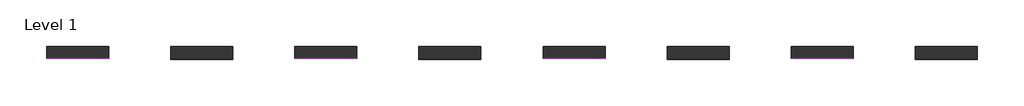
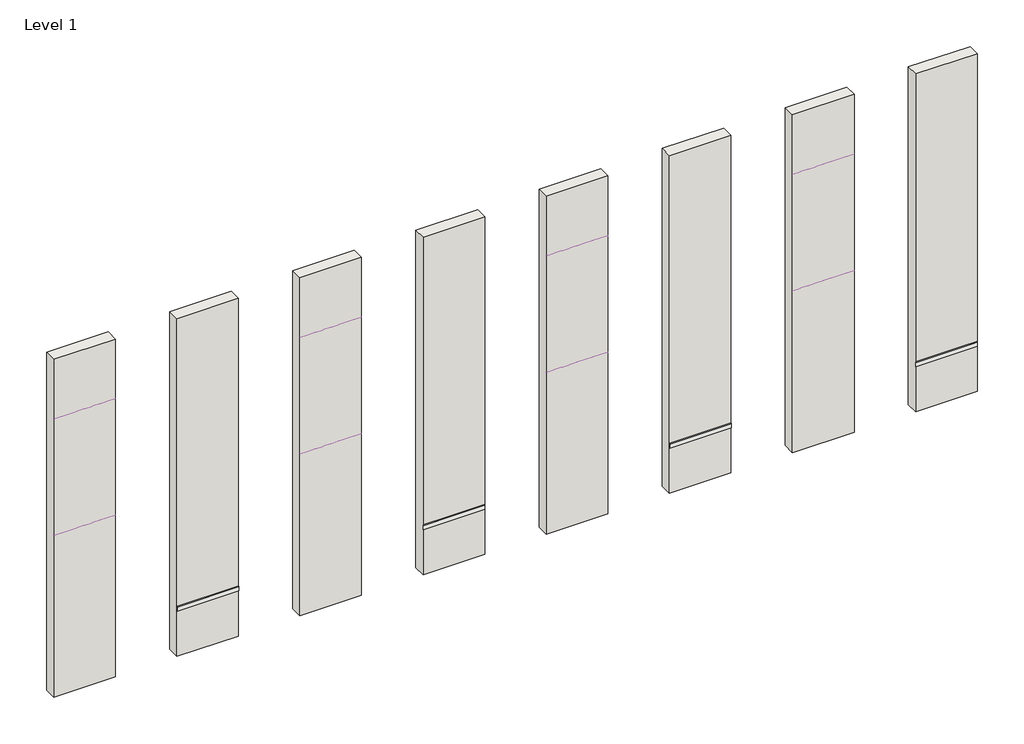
# One storey: 12 coverings, 8 walls.
"""IFC4 building model written with IfcOpenShell, lengths in millimetres."""

from ifc_helpers import new_model, si_unit, point, frame, frame_2d, origin, place, context, project, spatial, polyline, circle_curve, trimmed, segment, composite_curve, outline, extrude, faceted_brep, element, save

model = new_model("IFC4")

# Units and contexts
model_context = context("Model", 3, world=origin())
ifc_project = project(units=[si_unit("LENGTHUNIT", "METRE", prefix="MILLI")], contexts=[model_context])

# Site, building, storey
site = spatial("IfcSite", under=ifc_project)
building = spatial("IfcBuilding", under=site)
storey = spatial("IfcBuildingStorey", under=building, Name="Level 1", Elevation=0.0)

# Coverings
placement = place(None, origin())
element("IfcCovering", 1, ObjectType="LOVE TILES-SENSE-SKIRTING-8X60-TOUCH RECTIFIED-BEIGE", at=placement, inside=storey, context=model_context, shape_type="SweptSolid", body=[
    extrude(outline(composite_curve([segment(polyline([(3499.3010454, 4780.0), (3490.3010454, 4780.0), (3490.3010454, 4851.0)]), True, "CONTINUOUS"), segment(trimmed(circle_curve(frame_2d((3499.3010454, 4851.0)), 9.0), [point((3490.3010454, 4851.0))], [point((3499.3010454, 4860.0))], False, "CARTESIAN"), True, "CONTINUOUS"), segment(polyline([(3499.3010454, 4860.0), (3499.3010454, 4780.0)]), True, "CONTINUOUS")], self_intersect=False)), frame((2507.4095551, 0.0, 0.0), z_axis=(1.0, 0.0, 0.0), x_axis=(0.0, 1.0, 0.0)), (0.0, 0.0, 1.0), 1000.0),
])
element("IfcCovering", 2, ObjectType="LOVE TILES-SENSE-SKIRTING-8X80-TOUCH RECTIFIED-BEIGE", at=placement, inside=storey, context=model_context, shape_type="SweptSolid", body=[
    extrude(outline(composite_curve([segment(polyline([(3499.3010454, 2780.0), (3490.3010454, 2780.0), (3490.3010454, 2851.0)]), True, "CONTINUOUS"), segment(trimmed(circle_curve(frame_2d((3499.3010454, 2851.0)), 9.0), [point((3490.3010454, 2851.0))], [point((3499.3010454, 2860.0))], False, "CARTESIAN"), True, "CONTINUOUS"), segment(polyline([(3499.3010454, 2860.0), (3499.3010454, 2780.0)]), True, "CONTINUOUS")], self_intersect=False)), frame((2507.4095551, 0.0, 0.0), z_axis=(1.0, 0.0, 0.0), x_axis=(0.0, 1.0, 0.0)), (0.0, 0.0, 1.0), 1000.0),
])
element("IfcCovering", 3, ObjectType="LOVE TILES-SENSE-SKIRTING-8X100-IN&OUT RECTIFIED-BEIGE", at=placement, inside=storey, context=model_context, shape_type="SweptSolid", body=[
    extrude(outline(composite_curve([segment(polyline([(3499.3010454, 780.0), (3490.3010454, 780.0), (3490.3010454, 851.0)]), True, "CONTINUOUS"), segment(trimmed(circle_curve(frame_2d((3499.3010454, 851.0)), 9.0), [point((3490.3010454, 851.0))], [point((3499.3010454, 860.0))], False, "CARTESIAN"), True, "CONTINUOUS"), segment(polyline([(3499.3010454, 860.0), (3499.3010454, 780.0)]), True, "CONTINUOUS")], self_intersect=False)), frame((4507.4095551, 0.0, 0.0), z_axis=(1.0, 0.0, 0.0), x_axis=(0.0, 1.0, 0.0)), (0.0, 0.0, 1.0), 1000.0),
])
element("IfcCovering", 4, ObjectType="LOVE TILES-SENSE-SKIRTING-8X60-TOUCH RECTIFIED-GREY", at=placement, inside=storey, context=model_context, shape_type="SweptSolid", body=[
    extrude(outline(composite_curve([segment(polyline([(3499.3010454, 4780.0), (3490.3010454, 4780.0), (3490.3010454, 4851.0)]), True, "CONTINUOUS"), segment(trimmed(circle_curve(frame_2d((3499.3010454, 4851.0)), 9.0), [point((3490.3010454, 4851.0))], [point((3499.3010454, 4860.0))], False, "CARTESIAN"), True, "CONTINUOUS"), segment(polyline([(3499.3010454, 4860.0), (3499.3010454, 4780.0)]), True, "CONTINUOUS")], self_intersect=False)), frame((6507.4095551, 0.0, 0.0), z_axis=(1.0, 0.0, 0.0), x_axis=(0.0, 1.0, 0.0)), (0.0, 0.0, 1.0), 1000.0),
])
element("IfcCovering", 5, ObjectType="LOVE TILES-SENSE-SKIRTING-8X60-TOUCH RECTIFIED-LIGHT GREY", at=placement, inside=storey, context=model_context, shape_type="SweptSolid", body=[
    extrude(outline(composite_curve([segment(polyline([(3499.3010454, 4780.0), (3490.3010454, 4780.0), (3490.3010454, 4851.0)]), True, "CONTINUOUS"), segment(trimmed(circle_curve(frame_2d((3499.3010454, 4851.0)), 9.0), [point((3490.3010454, 4851.0))], [point((3499.3010454, 4860.0))], False, "CARTESIAN"), True, "CONTINUOUS"), segment(polyline([(3499.3010454, 4860.0), (3499.3010454, 4780.0)]), True, "CONTINUOUS")], self_intersect=False)), frame((10507.4095551, 0.0, 0.0), z_axis=(1.0, 0.0, 0.0), x_axis=(0.0, 1.0, 0.0)), (0.0, 0.0, 1.0), 1000.0),
])
element("IfcCovering", 6, ObjectType="LOVE TILES-SENSE-SKIRTING-8X60-TOUCH RECTIFIED-WHITE", at=placement, inside=storey, context=model_context, shape_type="SweptSolid", body=[
    extrude(outline(composite_curve([segment(polyline([(3499.3010454, 4780.0), (3490.3010454, 4780.0), (3490.3010454, 4851.0)]), True, "CONTINUOUS"), segment(trimmed(circle_curve(frame_2d((3499.3010454, 4851.0)), 9.0), [point((3490.3010454, 4851.0))], [point((3499.3010454, 4860.0))], False, "CARTESIAN"), True, "CONTINUOUS"), segment(polyline([(3499.3010454, 4860.0), (3499.3010454, 4780.0)]), True, "CONTINUOUS")], self_intersect=False)), frame((14507.4095551, 0.0, 0.0), z_axis=(1.0, 0.0, 0.0), x_axis=(0.0, 1.0, 0.0)), (0.0, 0.0, 1.0), 1000.0),
])
element("IfcCovering", 7, ObjectType="LOVE TILES-SENSE-SKIRTING-8X80-TOUCH RECTIFIED-GREY", at=placement, inside=storey, context=model_context, shape_type="SweptSolid", body=[
    extrude(outline(composite_curve([segment(polyline([(3499.3010454, 2780.0), (3490.3010454, 2780.0), (3490.3010454, 2851.0)]), True, "CONTINUOUS"), segment(trimmed(circle_curve(frame_2d((3499.3010454, 2851.0)), 9.0), [point((3490.3010454, 2851.0))], [point((3499.3010454, 2860.0))], False, "CARTESIAN"), True, "CONTINUOUS"), segment(polyline([(3499.3010454, 2860.0), (3499.3010454, 2780.0)]), True, "CONTINUOUS")], self_intersect=False)), frame((6507.4095551, 0.0, 0.0), z_axis=(1.0, 0.0, 0.0), x_axis=(0.0, 1.0, 0.0)), (0.0, 0.0, 1.0), 1000.0),
])
element("IfcCovering", 8, ObjectType="LOVE TILES-SENSE-SKIRTING-8X80-TOUCH RECTIFIED-LIGHT GREY", at=placement, inside=storey, context=model_context, shape_type="SweptSolid", body=[
    extrude(outline(composite_curve([segment(polyline([(3499.3010454, 2780.0), (3490.3010454, 2780.0), (3490.3010454, 2851.0)]), True, "CONTINUOUS"), segment(trimmed(circle_curve(frame_2d((3499.3010454, 2851.0)), 9.0), [point((3490.3010454, 2851.0))], [point((3499.3010454, 2860.0))], False, "CARTESIAN"), True, "CONTINUOUS"), segment(polyline([(3499.3010454, 2860.0), (3499.3010454, 2780.0)]), True, "CONTINUOUS")], self_intersect=False)), frame((10507.4095551, 0.0, 0.0), z_axis=(1.0, 0.0, 0.0), x_axis=(0.0, 1.0, 0.0)), (0.0, 0.0, 1.0), 1000.0),
])
element("IfcCovering", 9, ObjectType="LOVE TILES-SENSE-SKIRTING-8X80-TOUCH RECTIFIED-WHITE", at=placement, inside=storey, context=model_context, shape_type="SweptSolid", body=[
    extrude(outline(composite_curve([segment(polyline([(3499.3010454, 2780.0), (3490.3010454, 2780.0), (3490.3010454, 2851.0)]), True, "CONTINUOUS"), segment(trimmed(circle_curve(frame_2d((3499.3010454, 2851.0)), 9.0), [point((3490.3010454, 2851.0))], [point((3499.3010454, 2860.0))], False, "CARTESIAN"), True, "CONTINUOUS"), segment(polyline([(3499.3010454, 2860.0), (3499.3010454, 2780.0)]), True, "CONTINUOUS")], self_intersect=False)), frame((14507.4095551, 0.0, 0.0), z_axis=(1.0, 0.0, 0.0), x_axis=(0.0, 1.0, 0.0)), (0.0, 0.0, 1.0), 1000.0),
])
element("IfcCovering", 10, ObjectType="LOVE TILES-SENSE-SKIRTING-8X100-IN&OUT RECTIFIED-GREY", at=placement, inside=storey, context=model_context, shape_type="SweptSolid", body=[
    extrude(outline(composite_curve([segment(polyline([(3499.3010454, 780.0), (3490.3010454, 780.0), (3490.3010454, 851.0)]), True, "CONTINUOUS"), segment(trimmed(circle_curve(frame_2d((3499.3010454, 851.0)), 9.0), [point((3490.3010454, 851.0))], [point((3499.3010454, 860.0))], False, "CARTESIAN"), True, "CONTINUOUS"), segment(polyline([(3499.3010454, 860.0), (3499.3010454, 780.0)]), True, "CONTINUOUS")], self_intersect=False)), frame((8507.4095551, 0.0, 0.0), z_axis=(1.0, 0.0, 0.0), x_axis=(0.0, 1.0, 0.0)), (0.0, 0.0, 1.0), 1000.0),
])
element("IfcCovering", 11, ObjectType="LOVE TILES-SENSE-SKIRTING-8X100-IN&OUT RECTIFIED-LIGHT GREY", at=placement, inside=storey, context=model_context, shape_type="SweptSolid", body=[
    extrude(outline(composite_curve([segment(polyline([(3499.3010454, 780.0), (3490.3010454, 780.0), (3490.3010454, 851.0)]), True, "CONTINUOUS"), segment(trimmed(circle_curve(frame_2d((3499.3010454, 851.0)), 9.0), [point((3490.3010454, 851.0))], [point((3499.3010454, 860.0))], False, "CARTESIAN"), True, "CONTINUOUS"), segment(polyline([(3499.3010454, 860.0), (3499.3010454, 780.0)]), True, "CONTINUOUS")], self_intersect=False)), frame((12507.4095551, 0.0, 0.0), z_axis=(1.0, 0.0, 0.0), x_axis=(0.0, 1.0, 0.0)), (0.0, 0.0, 1.0), 1000.0),
])
element("IfcCovering", 12, ObjectType="LOVE TILES-SENSE-SKIRTING-8X100-IN&OUT RECTIFIED-WHITE", at=placement, inside=storey, context=model_context, shape_type="SweptSolid", body=[
    extrude(outline(composite_curve([segment(polyline([(3499.3010454, 780.0), (3490.3010454, 780.0), (3490.3010454, 851.0)]), True, "CONTINUOUS"), segment(trimmed(circle_curve(frame_2d((3499.3010454, 851.0)), 9.0), [point((3490.3010454, 851.0))], [point((3499.3010454, 860.0))], False, "CARTESIAN"), True, "CONTINUOUS"), segment(polyline([(3499.3010454, 860.0), (3499.3010454, 780.0)]), True, "CONTINUOUS")], self_intersect=False)), frame((16507.4095551, 0.0, 0.0), z_axis=(1.0, 0.0, 0.0), x_axis=(0.0, 1.0, 0.0)), (0.0, 0.0, 1.0), 1000.0),
])

# Walls
element("IfcWall", 13, ObjectType="Wall 1", at=placement, inside=storey, context=model_context, shape_type="Brep", body=[
    faceted_brep([(2507.4095551, 3499.3010454, 0.0), (3507.4095551, 3499.3010454, 0.0), (3507.4095551, 3499.3010454, 2780.0), (3507.4095551, 3499.3010454, 2860.0), (3507.4095551, 3499.3010454, 4780.0), (3507.4095551, 3499.3010454, 4860.0), (3507.4095551, 3499.3010454, 5800.0), (2507.4095551, 3499.3010454, 5800.0), (2507.4095551, 3499.3010454, 4860.0), (2507.4095551, 3499.3010454, 4780.0), (2507.4095551, 3499.3010454, 2860.0), (2507.4095551, 3499.3010454, 2780.0), (3507.4095551, 3699.3010454, 0.0), (2507.4095551, 3699.3010454, 0.0), (2507.4095551, 3699.3010454, 5800.0), (3507.4095551, 3699.3010454, 5800.0)], [[[0, 1, 2, 3, 4, 5, 6, 7, 8, 9, 10, 11]], [[12, 13, 14, 15]], [[1, 0, 13, 12]], [[12, 15, 6, 5, 4, 3, 2, 1]], [[7, 6, 15, 14]], [[14, 13, 0, 11, 10, 9, 8, 7]]]),
])
element("IfcWall", 14, ObjectType="Wall 1", at=placement, inside=storey, context=model_context, shape_type="Brep", body=[
    faceted_brep([(4507.4095551, 3499.3010454, 0.0), (5507.4095551, 3499.3010454, 0.0), (5507.4095551, 3499.3010454, 780.0), (5507.4095551, 3499.3010454, 860.0), (5507.4095551, 3499.3010454, 5800.0), (4507.4095551, 3499.3010454, 5800.0), (4507.4095551, 3499.3010454, 860.0), (4507.4095551, 3499.3010454, 780.0), (5507.4095551, 3699.3010454, 0.0), (4507.4095551, 3699.3010454, 0.0), (4507.4095551, 3699.3010454, 5800.0), (5507.4095551, 3699.3010454, 5800.0)], [[[0, 1, 2, 3, 4, 5, 6, 7]], [[8, 9, 10, 11]], [[1, 0, 9, 8]], [[8, 11, 4, 3, 2, 1]], [[5, 4, 11, 10]], [[10, 9, 0, 7, 6, 5]]]),
])
element("IfcWall", 15, ObjectType="Wall 1", at=placement, inside=storey, context=model_context, shape_type="Brep", body=[
    faceted_brep([(6507.4095551, 3499.3010454, 0.0), (7507.4095551, 3499.3010454, 0.0), (7507.4095551, 3499.3010454, 2780.0), (7507.4095551, 3499.3010454, 2860.0), (7507.4095551, 3499.3010454, 4780.0), (7507.4095551, 3499.3010454, 4860.0), (7507.4095551, 3499.3010454, 5800.0), (6507.4095551, 3499.3010454, 5800.0), (6507.4095551, 3499.3010454, 4860.0), (6507.4095551, 3499.3010454, 4780.0), (6507.4095551, 3499.3010454, 2860.0), (6507.4095551, 3499.3010454, 2780.0), (7507.4095551, 3699.3010454, 0.0), (6507.4095551, 3699.3010454, 0.0), (6507.4095551, 3699.3010454, 5800.0), (7507.4095551, 3699.3010454, 5800.0)], [[[0, 1, 2, 3, 4, 5, 6, 7, 8, 9, 10, 11]], [[12, 13, 14, 15]], [[1, 0, 13, 12]], [[12, 15, 6, 5, 4, 3, 2, 1]], [[7, 6, 15, 14]], [[14, 13, 0, 11, 10, 9, 8, 7]]]),
])
element("IfcWall", 16, ObjectType="Wall 1", at=placement, inside=storey, context=model_context, shape_type="Brep", body=[
    faceted_brep([(8507.4095551, 3499.3010454, 0.0), (9507.4095551, 3499.3010454, 0.0), (9507.4095551, 3499.3010454, 780.0), (9507.4095551, 3499.3010454, 860.0), (9507.4095551, 3499.3010454, 5800.0), (8507.4095551, 3499.3010454, 5800.0), (8507.4095551, 3499.3010454, 860.0), (8507.4095551, 3499.3010454, 780.0), (9507.4095551, 3699.3010454, 0.0), (8507.4095551, 3699.3010454, 0.0), (8507.4095551, 3699.3010454, 5800.0), (9507.4095551, 3699.3010454, 5800.0)], [[[0, 1, 2, 3, 4, 5, 6, 7]], [[8, 9, 10, 11]], [[1, 0, 9, 8]], [[8, 11, 4, 3, 2, 1]], [[5, 4, 11, 10]], [[10, 9, 0, 7, 6, 5]]]),
])
element("IfcWall", 17, ObjectType="Wall 1", at=placement, inside=storey, context=model_context, shape_type="Brep", body=[
    faceted_brep([(10507.4095551, 3499.3010454, 0.0), (11507.4095551, 3499.3010454, 0.0), (11507.4095551, 3499.3010454, 2780.0), (11507.4095551, 3499.3010454, 2860.0), (11507.4095551, 3499.3010454, 4780.0), (11507.4095551, 3499.3010454, 4860.0), (11507.4095551, 3499.3010454, 5800.0), (10507.4095551, 3499.3010454, 5800.0), (10507.4095551, 3499.3010454, 4860.0), (10507.4095551, 3499.3010454, 4780.0), (10507.4095551, 3499.3010454, 2860.0), (10507.4095551, 3499.3010454, 2780.0), (11507.4095551, 3699.3010454, 0.0), (10507.4095551, 3699.3010454, 0.0), (10507.4095551, 3699.3010454, 5800.0), (11507.4095551, 3699.3010454, 5800.0)], [[[0, 1, 2, 3, 4, 5, 6, 7, 8, 9, 10, 11]], [[12, 13, 14, 15]], [[1, 0, 13, 12]], [[12, 15, 6, 5, 4, 3, 2, 1]], [[7, 6, 15, 14]], [[14, 13, 0, 11, 10, 9, 8, 7]]]),
])
element("IfcWall", 18, ObjectType="Wall 1", at=placement, inside=storey, context=model_context, shape_type="Brep", body=[
    faceted_brep([(12507.4095551, 3499.3010454, 0.0), (13507.4095551, 3499.3010454, 0.0), (13507.4095551, 3499.3010454, 780.0), (13507.4095551, 3499.3010454, 860.0), (13507.4095551, 3499.3010454, 5800.0), (12507.4095551, 3499.3010454, 5800.0), (12507.4095551, 3499.3010454, 860.0), (12507.4095551, 3499.3010454, 780.0), (13507.4095551, 3699.3010454, 0.0), (12507.4095551, 3699.3010454, 0.0), (12507.4095551, 3699.3010454, 5800.0), (13507.4095551, 3699.3010454, 5800.0)], [[[0, 1, 2, 3, 4, 5, 6, 7]], [[8, 9, 10, 11]], [[1, 0, 9, 8]], [[8, 11, 4, 3, 2, 1]], [[5, 4, 11, 10]], [[10, 9, 0, 7, 6, 5]]]),
])
element("IfcWall", 19, ObjectType="Wall 1", at=placement, inside=storey, context=model_context, shape_type="Brep", body=[
    faceted_brep([(14507.4095551, 3499.3010454, 0.0), (15507.4095551, 3499.3010454, 0.0), (15507.4095551, 3499.3010454, 2780.0), (15507.4095551, 3499.3010454, 2860.0), (15507.4095551, 3499.3010454, 4780.0), (15507.4095551, 3499.3010454, 4860.0), (15507.4095551, 3499.3010454, 5800.0), (14507.4095551, 3499.3010454, 5800.0), (14507.4095551, 3499.3010454, 4860.0), (14507.4095551, 3499.3010454, 4780.0), (14507.4095551, 3499.3010454, 2860.0), (14507.4095551, 3499.3010454, 2780.0), (15507.4095551, 3699.3010454, 0.0), (14507.4095551, 3699.3010454, 0.0), (14507.4095551, 3699.3010454, 5800.0), (15507.4095551, 3699.3010454, 5800.0)], [[[0, 1, 2, 3, 4, 5, 6, 7, 8, 9, 10, 11]], [[12, 13, 14, 15]], [[1, 0, 13, 12]], [[12, 15, 6, 5, 4, 3, 2, 1]], [[7, 6, 15, 14]], [[14, 13, 0, 11, 10, 9, 8, 7]]]),
])
element("IfcWall", 20, ObjectType="Wall 1", at=placement, inside=storey, context=model_context, shape_type="Brep", body=[
    faceted_brep([(16507.4095551, 3499.3010454, 0.0), (17507.4095551, 3499.3010454, 0.0), (17507.4095551, 3499.3010454, 780.0), (17507.4095551, 3499.3010454, 860.0), (17507.4095551, 3499.3010454, 5800.0), (16507.4095551, 3499.3010454, 5800.0), (16507.4095551, 3499.3010454, 860.0), (16507.4095551, 3499.3010454, 780.0), (17507.4095551, 3699.3010454, 0.0), (16507.4095551, 3699.3010454, 0.0), (16507.4095551, 3699.3010454, 5800.0), (17507.4095551, 3699.3010454, 5800.0)], [[[0, 1, 2, 3, 4, 5, 6, 7]], [[8, 9, 10, 11]], [[1, 0, 9, 8]], [[8, 11, 4, 3, 2, 1]], [[5, 4, 11, 10]], [[10, 9, 0, 7, 6, 5]]]),
])

save(model, "model.ifc")
